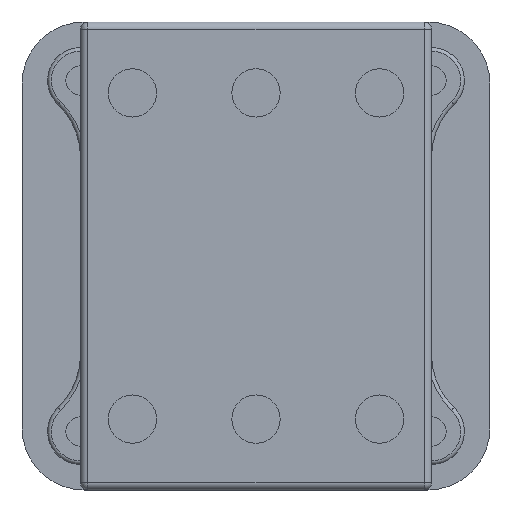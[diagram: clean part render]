
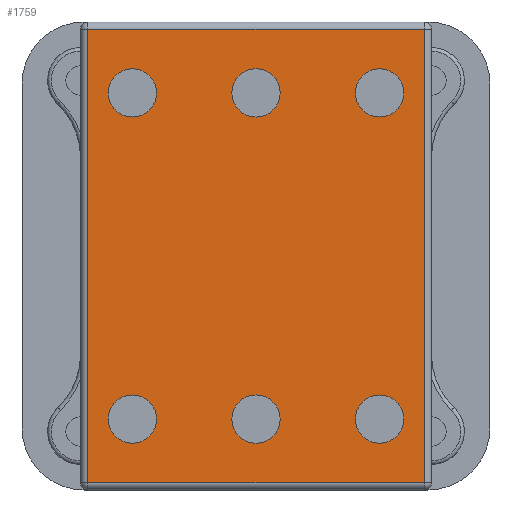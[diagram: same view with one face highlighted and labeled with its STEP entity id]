
A CAD part, front view. The second image highlights one B-rep face of the part: STEP entity #1759.
In plain terms, the highlighted planar face has unit normal (0, -1, 0).
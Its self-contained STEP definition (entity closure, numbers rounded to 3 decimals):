
#68 = EDGE_CURVE ( 'NONE', #860, #8701, #1577, .T. ) ;
#116 = CARTESIAN_POINT ( 'NONE',  ( -16.9, 0., -25.6 ) ) ;
#135 = ORIENTED_EDGE ( 'NONE', *, *, #8601, .F. ) ;
#230 = VERTEX_POINT ( 'NONE', #7328 ) ;
#245 = CARTESIAN_POINT ( 'NONE',  ( -16.9, 0., -22.3 ) ) ;
#295 = AXIS2_PLACEMENT_3D ( 'NONE', #7380, #5361, #6982 ) ;
#325 = CIRCLE ( 'NONE', #2240, 3.3 ) ;
#356 = DIRECTION ( 'NONE',  ( 0., 0., 1. ) ) ;
#444 = CARTESIAN_POINT ( 'NONE',  ( 16.9, 0., 19. ) ) ;
#448 = CARTESIAN_POINT ( 'NONE',  ( 23., 0., 31. ) ) ;
#512 = AXIS2_PLACEMENT_3D ( 'NONE', #940, #6044, #1701 ) ;
#547 = CARTESIAN_POINT ( 'NONE',  ( 0., 0., -22.3 ) ) ;
#793 = VERTEX_POINT ( 'NONE', #8364 ) ;
#860 = VERTEX_POINT ( 'NONE', #4137 ) ;
#940 = CARTESIAN_POINT ( 'NONE',  ( 16.9, 0., 22.3 ) ) ;
#954 = DIRECTION ( 'NONE',  ( 0., 0., -1. ) ) ;
#977 = VECTOR ( 'NONE', #4156, 1000. ) ;
#1031 = VECTOR ( 'NONE', #3028, 1000. ) ;
#1099 = DIRECTION ( 'NONE',  ( 0., -1., 0. ) ) ;
#1182 = DIRECTION ( 'NONE',  ( 0., -1., 0. ) ) ;
#1208 = LINE ( 'NONE', #8441, #977 ) ;
#1304 = DIRECTION ( 'NONE',  ( 0., 0., 1. ) ) ;
#1369 = VERTEX_POINT ( 'NONE', #3412 ) ;
#1375 = CIRCLE ( 'NONE', #295, 3.3 ) ;
#1416 = DIRECTION ( 'NONE',  ( 0., -1., 0. ) ) ;
#1504 = CARTESIAN_POINT ( 'NONE',  ( 0., 0., 25.6 ) ) ;
#1531 = EDGE_LOOP ( 'NONE', ( #7205, #135 ) ) ;
#1543 = FACE_BOUND ( 'NONE', #4459, .T. ) ;
#1577 = CIRCLE ( 'NONE', #5224, 3.3 ) ;
#1701 = DIRECTION ( 'NONE',  ( 0., 0., -1. ) ) ;
#1703 = AXIS2_PLACEMENT_3D ( 'NONE', #3784, #8809, #4510 ) ;
#1750 = EDGE_LOOP ( 'NONE', ( #7992, #2943 ) ) ;
#1753 = CARTESIAN_POINT ( 'NONE',  ( 0., 0., 22.3 ) ) ;
#1759 = ADVANCED_FACE ( 'NONE', ( #1788, #3502, #7310, #3714, #1543, #9004, #7093 ), #2084, .F. ) ;
#1788 = FACE_OUTER_BOUND ( 'NONE', #3265, .T. ) ;
#1794 = CIRCLE ( 'NONE', #1703, 3.3 ) ;
#1857 = CIRCLE ( 'NONE', #4917, 3.3 ) ;
#2018 = DIRECTION ( 'NONE',  ( 0., 0., 1. ) ) ;
#2084 = PLANE ( 'NONE',  #6864 ) ;
#2192 = VECTOR ( 'NONE', #6753, 1000. ) ;
#2214 = EDGE_CURVE ( 'NONE', #6939, #6317, #4946, .T. ) ;
#2217 = CARTESIAN_POINT ( 'NONE',  ( 24., 0., 32. ) ) ;
#2229 = AXIS2_PLACEMENT_3D ( 'NONE', #245, #6247, #6220 ) ;
#2240 = AXIS2_PLACEMENT_3D ( 'NONE', #1753, #1416, #954 ) ;
#2298 = AXIS2_PLACEMENT_3D ( 'NONE', #8373, #4056, #9093 ) ;
#2426 = AXIS2_PLACEMENT_3D ( 'NONE', #547, #5667, #1304 ) ;
#2450 = CARTESIAN_POINT ( 'NONE',  ( 0., 0., -22.3 ) ) ;
#2484 = DIRECTION ( 'NONE',  ( 0., 1., 0. ) ) ;
#2585 = VERTEX_POINT ( 'NONE', #1504 ) ;
#2655 = CIRCLE ( 'NONE', #4737, 3.3 ) ;
#2759 = CARTESIAN_POINT ( 'NONE',  ( 16.9, 0., -19. ) ) ;
#2818 = CARTESIAN_POINT ( 'NONE',  ( 16.9, 0., -25.6 ) ) ;
#2909 = CARTESIAN_POINT ( 'NONE',  ( 23., 0., -31. ) ) ;
#2943 = ORIENTED_EDGE ( 'NONE', *, *, #3498, .T. ) ;
#3002 = LINE ( 'NONE', #3175, #1031 ) ;
#3028 = DIRECTION ( 'NONE',  ( 0., 0., 1. ) ) ;
#3044 = VERTEX_POINT ( 'NONE', #7144 ) ;
#3050 = AXIS2_PLACEMENT_3D ( 'NONE', #5474, #1099, #6188 ) ;
#3151 = LINE ( 'NONE', #4222, #5072 ) ;
#3175 = CARTESIAN_POINT ( 'NONE',  ( 23., 0., 32. ) ) ;
#3265 = EDGE_LOOP ( 'NONE', ( #6970, #7196, #8324, #9002 ) ) ;
#3312 = EDGE_CURVE ( 'NONE', #7668, #7136, #3002, .T. ) ;
#3319 = CARTESIAN_POINT ( 'NONE',  ( 0., 0., -25.6 ) ) ;
#3399 = ORIENTED_EDGE ( 'NONE', *, *, #7695, .T. ) ;
#3412 = CARTESIAN_POINT ( 'NONE',  ( 0., 0., -19. ) ) ;
#3490 = DIRECTION ( 'NONE',  ( 0., 1., 0. ) ) ;
#3498 = EDGE_CURVE ( 'NONE', #6317, #6939, #1375, .T. ) ;
#3502 = FACE_BOUND ( 'NONE', #9303, .T. ) ;
#3580 = AXIS2_PLACEMENT_3D ( 'NONE', #2450, #2484, #356 ) ;
#3691 = DIRECTION ( 'NONE',  ( 0., 1., 0. ) ) ;
#3714 = FACE_BOUND ( 'NONE', #5169, .T. ) ;
#3718 = EDGE_CURVE ( 'NONE', #4903, #7668, #4105, .T. ) ;
#3784 = CARTESIAN_POINT ( 'NONE',  ( 0., 0., 22.3 ) ) ;
#3787 = EDGE_CURVE ( 'NONE', #5138, #1369, #5363, .T. ) ;
#4044 = CIRCLE ( 'NONE', #512, 3.3 ) ;
#4056 = DIRECTION ( 'NONE',  ( 0., 1., 0. ) ) ;
#4105 = LINE ( 'NONE', #4626, #2192 ) ;
#4137 = CARTESIAN_POINT ( 'NONE',  ( 16.9, 0., 25.6 ) ) ;
#4156 = DIRECTION ( 'NONE',  ( 0., 0., -1. ) ) ;
#4198 = EDGE_CURVE ( 'NONE', #2585, #793, #325, .T. ) ;
#4222 = CARTESIAN_POINT ( 'NONE',  ( 24., 0., 31. ) ) ;
#4327 = VERTEX_POINT ( 'NONE', #6494 ) ;
#4459 = EDGE_LOOP ( 'NONE', ( #9011, #7544 ) ) ;
#4510 = DIRECTION ( 'NONE',  ( 0., 0., -1. ) ) ;
#4626 = CARTESIAN_POINT ( 'NONE',  ( 24., 0., -31. ) ) ;
#4660 = CIRCLE ( 'NONE', #2426, 3.3 ) ;
#4720 = VERTEX_POINT ( 'NONE', #2818 ) ;
#4737 = AXIS2_PLACEMENT_3D ( 'NONE', #7987, #3691, #8707 ) ;
#4903 = VERTEX_POINT ( 'NONE', #5210 ) ;
#4917 = AXIS2_PLACEMENT_3D ( 'NONE', #5558, #1182, #6284 ) ;
#4946 = CIRCLE ( 'NONE', #2229, 3.3 ) ;
#4993 = EDGE_LOOP ( 'NONE', ( #3399, #7429 ) ) ;
#5072 = VECTOR ( 'NONE', #9260, 1000. ) ;
#5138 = VERTEX_POINT ( 'NONE', #3319 ) ;
#5169 = EDGE_LOOP ( 'NONE', ( #8091, #8554 ) ) ;
#5210 = CARTESIAN_POINT ( 'NONE',  ( -23., 0., -31. ) ) ;
#5224 = AXIS2_PLACEMENT_3D ( 'NONE', #9248, #9191, #9123 ) ;
#5361 = DIRECTION ( 'NONE',  ( 0., 1., 0. ) ) ;
#5363 = CIRCLE ( 'NONE', #3580, 3.3 ) ;
#5457 = CIRCLE ( 'NONE', #2298, 3.3 ) ;
#5474 = CARTESIAN_POINT ( 'NONE',  ( -16.9, 0., 22.3 ) ) ;
#5558 = CARTESIAN_POINT ( 'NONE',  ( -16.9, 0., 22.3 ) ) ;
#5667 = DIRECTION ( 'NONE',  ( 0., 1., 0. ) ) ;
#5842 = EDGE_CURVE ( 'NONE', #7177, #4720, #5457, .T. ) ;
#5865 = ORIENTED_EDGE ( 'NONE', *, *, #3787, .T. ) ;
#6044 = DIRECTION ( 'NONE',  ( 0., -1., 0. ) ) ;
#6188 = DIRECTION ( 'NONE',  ( 0., 0., -1. ) ) ;
#6220 = DIRECTION ( 'NONE',  ( 0., 0., 1. ) ) ;
#6247 = DIRECTION ( 'NONE',  ( 0., 1., 0. ) ) ;
#6267 = EDGE_CURVE ( 'NONE', #1369, #5138, #4660, .T. ) ;
#6284 = DIRECTION ( 'NONE',  ( 0., 0., -1. ) ) ;
#6317 = VERTEX_POINT ( 'NONE', #6418 ) ;
#6418 = CARTESIAN_POINT ( 'NONE',  ( -16.9, 0., -19. ) ) ;
#6433 = CIRCLE ( 'NONE', #3050, 3.3 ) ;
#6494 = CARTESIAN_POINT ( 'NONE',  ( -23., 0., 31. ) ) ;
#6753 = DIRECTION ( 'NONE',  ( 1., 0., 0. ) ) ;
#6864 = AXIS2_PLACEMENT_3D ( 'NONE', #2217, #3490, #2018 ) ;
#6939 = VERTEX_POINT ( 'NONE', #116 ) ;
#6970 = ORIENTED_EDGE ( 'NONE', *, *, #8304, .T. ) ;
#6982 = DIRECTION ( 'NONE',  ( 0., 0., 1. ) ) ;
#7093 = FACE_BOUND ( 'NONE', #4993, .T. ) ;
#7136 = VERTEX_POINT ( 'NONE', #448 ) ;
#7144 = CARTESIAN_POINT ( 'NONE',  ( -16.9, 0., 25.6 ) ) ;
#7177 = VERTEX_POINT ( 'NONE', #2759 ) ;
#7196 = ORIENTED_EDGE ( 'NONE', *, *, #3718, .T. ) ;
#7205 = ORIENTED_EDGE ( 'NONE', *, *, #7516, .F. ) ;
#7310 = FACE_BOUND ( 'NONE', #1531, .T. ) ;
#7328 = CARTESIAN_POINT ( 'NONE',  ( -16.9, 0., 19. ) ) ;
#7380 = CARTESIAN_POINT ( 'NONE',  ( -16.9, 0., -22.3 ) ) ;
#7429 = ORIENTED_EDGE ( 'NONE', *, *, #5842, .T. ) ;
#7516 = EDGE_CURVE ( 'NONE', #230, #3044, #1857, .T. ) ;
#7544 = ORIENTED_EDGE ( 'NONE', *, *, #68, .F. ) ;
#7668 = VERTEX_POINT ( 'NONE', #2909 ) ;
#7695 = EDGE_CURVE ( 'NONE', #4720, #7177, #2655, .T. ) ;
#7987 = CARTESIAN_POINT ( 'NONE',  ( 16.9, 0., -22.3 ) ) ;
#7992 = ORIENTED_EDGE ( 'NONE', *, *, #2214, .T. ) ;
#8091 = ORIENTED_EDGE ( 'NONE', *, *, #9026, .F. ) ;
#8304 = EDGE_CURVE ( 'NONE', #4327, #4903, #1208, .T. ) ;
#8324 = ORIENTED_EDGE ( 'NONE', *, *, #3312, .T. ) ;
#8364 = CARTESIAN_POINT ( 'NONE',  ( 0., 0., 19. ) ) ;
#8373 = CARTESIAN_POINT ( 'NONE',  ( 16.9, 0., -22.3 ) ) ;
#8441 = CARTESIAN_POINT ( 'NONE',  ( -23., 0., 32. ) ) ;
#8442 = ORIENTED_EDGE ( 'NONE', *, *, #6267, .T. ) ;
#8554 = ORIENTED_EDGE ( 'NONE', *, *, #4198, .F. ) ;
#8601 = EDGE_CURVE ( 'NONE', #3044, #230, #6433, .T. ) ;
#8701 = VERTEX_POINT ( 'NONE', #444 ) ;
#8707 = DIRECTION ( 'NONE',  ( 0., 0., 1. ) ) ;
#8788 = EDGE_CURVE ( 'NONE', #7136, #4327, #3151, .T. ) ;
#8809 = DIRECTION ( 'NONE',  ( 0., -1., 0. ) ) ;
#9002 = ORIENTED_EDGE ( 'NONE', *, *, #8788, .T. ) ;
#9004 = FACE_BOUND ( 'NONE', #1750, .T. ) ;
#9011 = ORIENTED_EDGE ( 'NONE', *, *, #9201, .F. ) ;
#9026 = EDGE_CURVE ( 'NONE', #793, #2585, #1794, .T. ) ;
#9093 = DIRECTION ( 'NONE',  ( 0., 0., 1. ) ) ;
#9123 = DIRECTION ( 'NONE',  ( 0., 0., -1. ) ) ;
#9191 = DIRECTION ( 'NONE',  ( 0., -1., 0. ) ) ;
#9201 = EDGE_CURVE ( 'NONE', #8701, #860, #4044, .T. ) ;
#9248 = CARTESIAN_POINT ( 'NONE',  ( 16.9, 0., 22.3 ) ) ;
#9260 = DIRECTION ( 'NONE',  ( -1., 0., 0. ) ) ;
#9303 = EDGE_LOOP ( 'NONE', ( #5865, #8442 ) ) ;
